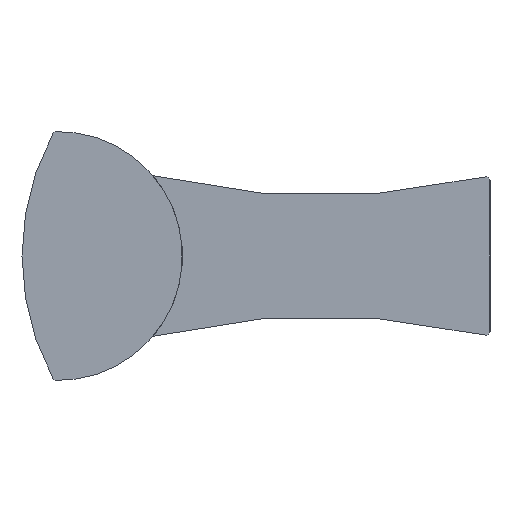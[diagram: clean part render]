
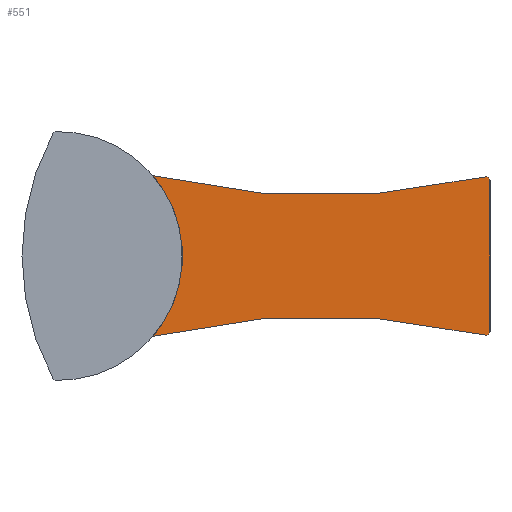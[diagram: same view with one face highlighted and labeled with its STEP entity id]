
A CAD part, left-side view. The second image highlights one B-rep face of the part: STEP entity #551.
In plain terms, the highlighted planar face has unit normal (-1, 0, 0).
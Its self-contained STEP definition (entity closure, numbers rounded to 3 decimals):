
#25=PLANE('',#621);
#70=FACE_OUTER_BOUND('',#103,.T.);
#103=EDGE_LOOP('',(#418,#419,#420,#421,#422,#423));
#134=LINE('',#1011,#162);
#162=VECTOR('',#737,10.);
#195=CIRCLE('',#619,0.25);
#196=CIRCLE('',#622,44.725);
#197=CIRCLE('',#623,7.754);
#198=CIRCLE('',#624,44.725);
#199=CIRCLE('',#625,0.25);
#244=VERTEX_POINT('',#1004);
#245=VERTEX_POINT('',#1006);
#246=VERTEX_POINT('',#1010);
#248=VERTEX_POINT('',#1016);
#249=VERTEX_POINT('',#1018);
#250=VERTEX_POINT('',#1020);
#306=EDGE_CURVE('',#244,#245,#195,.T.);
#308=EDGE_CURVE('',#246,#245,#134,.T.);
#311=EDGE_CURVE('',#244,#248,#196,.T.);
#312=EDGE_CURVE('',#248,#249,#197,.T.);
#313=EDGE_CURVE('',#249,#250,#198,.T.);
#314=EDGE_CURVE('',#246,#250,#199,.T.);
#418=ORIENTED_EDGE('',*,*,#306,.F.);
#419=ORIENTED_EDGE('',*,*,#311,.T.);
#420=ORIENTED_EDGE('',*,*,#312,.T.);
#421=ORIENTED_EDGE('',*,*,#313,.T.);
#422=ORIENTED_EDGE('',*,*,#314,.F.);
#423=ORIENTED_EDGE('',*,*,#308,.T.);
#551=ADVANCED_FACE('',(#70),#25,.T.);
#619=AXIS2_PLACEMENT_3D('',#1007,#732,#733);
#621=AXIS2_PLACEMENT_3D('',#1015,#740,#741);
#622=AXIS2_PLACEMENT_3D('',#1017,#742,#743);
#623=AXIS2_PLACEMENT_3D('',#1019,#744,#745);
#624=AXIS2_PLACEMENT_3D('',#1021,#746,#747);
#625=AXIS2_PLACEMENT_3D('',#1022,#748,#749);
#732=DIRECTION('center_axis',(1.,0.,0.));
#733=DIRECTION('ref_axis',(0.,-0.621,0.784));
#737=DIRECTION('',(0.,0.,1.));
#740=DIRECTION('center_axis',(-1.,0.,0.));
#741=DIRECTION('ref_axis',(0.,0.,1.));
#742=DIRECTION('center_axis',(1.,0.,0.));
#743=DIRECTION('ref_axis',(0.,-0.235,0.972));
#744=DIRECTION('center_axis',(1.,0.,0.));
#745=DIRECTION('ref_axis',(0.,-0.032,0.999));
#746=DIRECTION('center_axis',(1.,0.,0.));
#747=DIRECTION('ref_axis',(0.,0.235,-0.972));
#748=DIRECTION('center_axis',(1.,0.,0.));
#749=DIRECTION('ref_axis',(0.,-0.621,-0.784));
#1004=CARTESIAN_POINT('',(-154.,-26.866,-2.823));
#1006=CARTESIAN_POINT('',(-154.,-27.173,-3.066));
#1007=CARTESIAN_POINT('Origin',(-154.,-26.923,-3.066));
#1010=CARTESIAN_POINT('',(-154.,-27.173,-12.434));
#1011=CARTESIAN_POINT('',(-154.,-27.173,-12.75));
#1015=CARTESIAN_POINT('Origin',(-154.,-16.673,-7.75));
#1016=CARTESIAN_POINT('',(-154.,-6.173,-2.75));
#1017=CARTESIAN_POINT('Origin',(-154.,-16.673,40.725));
#1018=CARTESIAN_POINT('',(-154.,-6.173,-12.75));
#1019=CARTESIAN_POINT('Origin',(-154.,-0.246,-7.75));
#1020=CARTESIAN_POINT('',(-154.,-26.866,-12.677));
#1021=CARTESIAN_POINT('Origin',(-154.,-16.673,-56.225));
#1022=CARTESIAN_POINT('Origin',(-154.,-26.923,-12.434));
